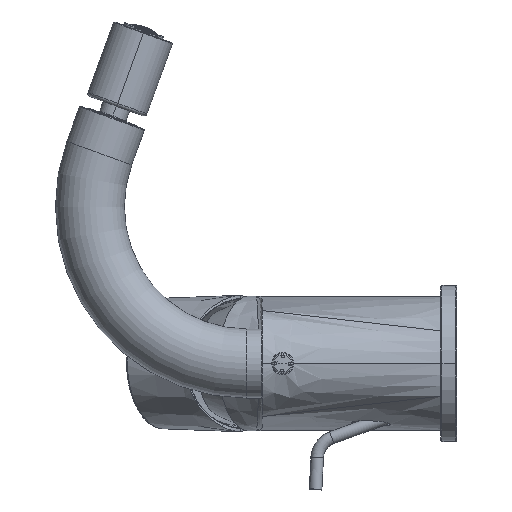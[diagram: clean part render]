
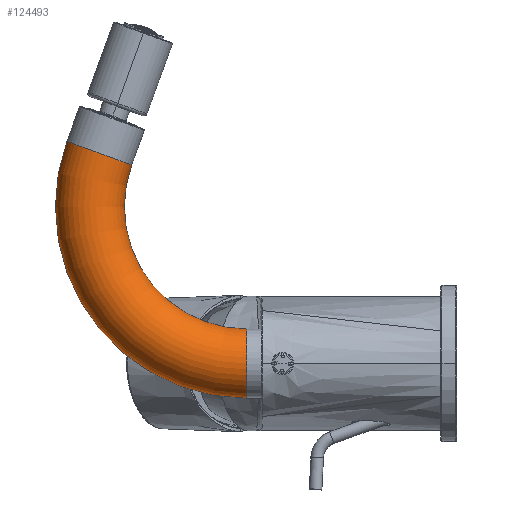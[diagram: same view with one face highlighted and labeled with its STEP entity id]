
A CAD part, left-side view. The second image highlights one B-rep face of the part: STEP entity #124493.
In plain terms, the highlighted toroidal (fillet/blend) face has major radius 50 mm and minor radius 11 mm.
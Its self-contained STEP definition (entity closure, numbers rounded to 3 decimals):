
#42353=CARTESIAN_POINT('',(-13.5,108.985,67.101));
#42354=DIRECTION('',(0.,-0.342,0.94));
#42355=DIRECTION('',(0.,0.94,0.342));
#42356=AXIS2_PLACEMENT_3D('',#42353,#42354,#42355);
#42381=CARTESIAN_POINT('',(-13.5,62.,50.));
#42382=DIRECTION('',(1.,0.,0.));
#42383=DIRECTION('',(0.,0.,-1.));
#42384=AXIS2_PLACEMENT_3D('',#42381,#42382,#42383);
#42424=CARTESIAN_POINT('',(-13.5,62.,0.));
#42425=DIRECTION('',(0.,1.,0.));
#42426=DIRECTION('',(0.,0.,-1.));
#42427=AXIS2_PLACEMENT_3D('',#42424,#42425,#42426);
#42429=CARTESIAN_POINT('',(-13.5,62.,50.));
#42430=DIRECTION('',(1.,0.,0.));
#42431=DIRECTION('',(0.,0.,-1.));
#42432=AXIS2_PLACEMENT_3D('',#42429,#42430,#42431);
#68055=CARTESIAN_POINT('',(-13.5,62.,-11.));
#68056=CARTESIAN_POINT('',(-13.5,62.,11.));
#68057=VERTEX_POINT('',#68055);
#68058=VERTEX_POINT('',#68056);
#68063=CARTESIAN_POINT('',(-13.5,119.321,70.863));
#68064=CARTESIAN_POINT('',(-13.5,98.648,63.339));
#68065=VERTEX_POINT('',#68063);
#68066=VERTEX_POINT('',#68064);
#124482=CARTESIAN_POINT('',(-13.5,62.,50.));
#124483=DIRECTION('',(1.,0.,0.));
#124484=DIRECTION('',(0.,0.,1.));
#124485=AXIS2_PLACEMENT_3D('',#124482,#124483,#124484);
#124486=TOROIDAL_SURFACE('',#124485,50.,11.);
#124487=ORIENTED_EDGE('',*,*,#124476,.F.);
#124488=ORIENTED_EDGE('',*,*,#124404,.T.);
#124489=ORIENTED_EDGE('',*,*,#124374,.T.);
#124490=ORIENTED_EDGE('',*,*,#124401,.F.);
#124491=EDGE_LOOP('',(#124487,#124488,#124489,#124490));
#124492=FACE_OUTER_BOUND('',#124491,.F.);
#124493=ADVANCED_FACE('',(#124492),#124486,.T.);
#42357=CIRCLE('',#42356,11.);
#42385=CIRCLE('',#42384,39.);
#42428=CIRCLE('',#42427,11.);
#42433=CIRCLE('',#42432,61.);
#124374=EDGE_CURVE('',#68065,#68066,#42357,.T.);
#124401=EDGE_CURVE('',#68058,#68066,#42385,.T.);
#124404=EDGE_CURVE('',#68057,#68065,#42433,.T.);
#124476=EDGE_CURVE('',#68057,#68058,#42428,.T.);
